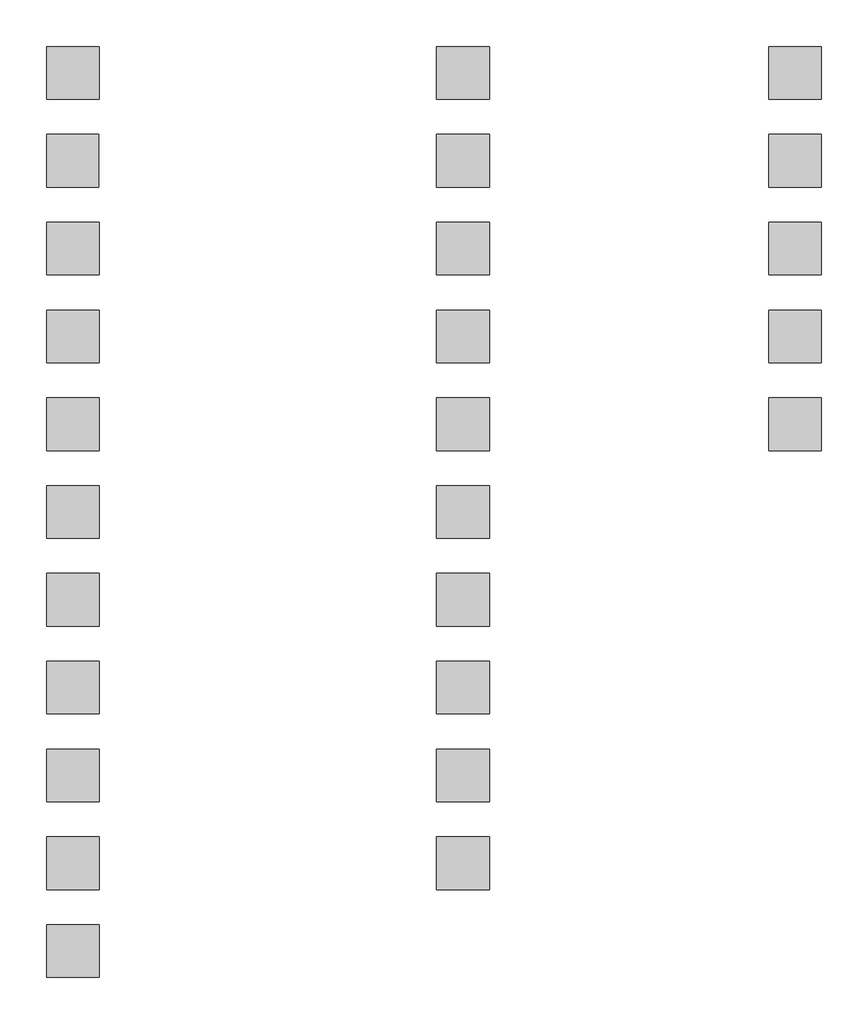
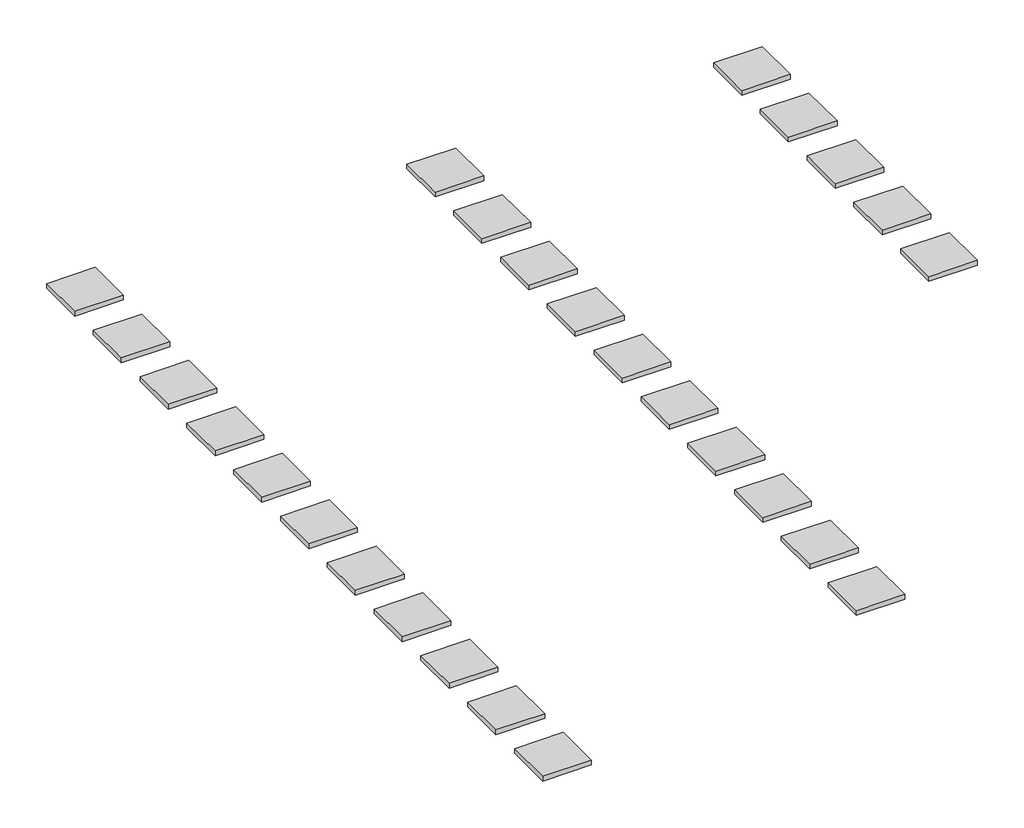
# One storey: 26 proxies.
"""IFC4 building model written with IfcOpenShell, lengths in millimetres."""

from ifc_helpers import new_model, si_unit, origin, place, context, project, spatial, transform, mapped, element, save
from components import generic_models_0c09b2ec, generic_models_9b3acfd8, generic_models_28068f12, generic_models_6499e876, generic_models_cb08545f, generic_models_b631c376, generic_models_fcddf058, generic_models_67897759, generic_models_f406bcb4, generic_models_e74df339, generic_models_d84b7280, generic_models_5f2c8e4c, generic_models_f087d3d4, generic_models_71eee53d, generic_models_0452db8b, generic_models_9dd790ae, generic_models_6202fbd5, generic_models_1e27c4d6, generic_models_567bf115, generic_models_7087feed, generic_models_07bc0a28, generic_models_a4b7abf8, generic_models_f42c9dbd, generic_models_39fc4655, generic_models_cf36a30d, generic_models_b7aa1bbc

model = new_model("IFC4")

# Units and contexts
model_context = context("Model", 3, world=origin())
ifc_project = project(units=[si_unit("LENGTHUNIT", "METRE", prefix="MILLI")], contexts=[model_context])

# Site, building, storey
site = spatial("IfcSite", under=ifc_project)
building = spatial("IfcBuilding", under=site)
storey = spatial("IfcBuildingStorey", under=building, Name="Nível 1", Elevation=0.0)

# Proxies
placement = place(None, origin())
generic_models_shape = generic_models_0c09b2ec(model_context)
element("IfcBuildingElementProxy", 1, Name="Modelos genéricos 1 : Modelos genéricos 1", ObjectType="Modelos genéricos 1 : Modelos genéricos 1", at=placement, inside=storey, context=model_context, shape_type="MappedRepresentation", body=[
    mapped(generic_models_shape, transform((468.0, 0.0, 0.0), x_axis=(1.0, 0.0, 0.0), y_axis=(0.0, 1.0, 0.0), z_axis=(0.0, 0.0, 1.0))),
])
generic_models_2_shape = generic_models_9b3acfd8(model_context)
element("IfcBuildingElementProxy", 2, Name="Modelos genéricos 2 : Modelos genéricos 1", ObjectType="Modelos genéricos 2 : Modelos genéricos 1", at=placement, inside=storey, context=model_context, shape_type="MappedRepresentation", body=[
    mapped(generic_models_2_shape, transform((468.0, 0.0, 0.0), x_axis=(1.0, 0.0, 0.0), y_axis=(0.0, 1.0, 0.0), z_axis=(0.0, 0.0, 1.0))),
])
generic_models_3_shape = generic_models_28068f12(model_context)
element("IfcBuildingElementProxy", 3, Name="Modelos genéricos 3 : Modelos genéricos 1", ObjectType="Modelos genéricos 3 : Modelos genéricos 1", at=placement, inside=storey, context=model_context, shape_type="MappedRepresentation", body=[
    mapped(generic_models_3_shape, transform((468.0, 0.0, 0.0), x_axis=(1.0, 0.0, 0.0), y_axis=(0.0, 1.0, 0.0), z_axis=(0.0, 0.0, 1.0))),
])
generic_models_4_shape = generic_models_6499e876(model_context)
element("IfcBuildingElementProxy", 4, Name="Modelos genéricos 4 : Modelos genéricos 1", ObjectType="Modelos genéricos 4 : Modelos genéricos 1", at=placement, inside=storey, context=model_context, shape_type="MappedRepresentation", body=[
    mapped(generic_models_4_shape, transform((468.0, 0.0, 0.0), x_axis=(1.0, 0.0, 0.0), y_axis=(0.0, 1.0, 0.0), z_axis=(0.0, 0.0, 1.0))),
])
generic_models_5_shape = generic_models_cb08545f(model_context)
element("IfcBuildingElementProxy", 5, Name="Modelos genéricos 5 : Modelos genéricos 1", ObjectType="Modelos genéricos 5 : Modelos genéricos 1", at=placement, inside=storey, context=model_context, shape_type="MappedRepresentation", body=[
    mapped(generic_models_5_shape, transform((468.0, 0.0, 0.0), x_axis=(1.0, 0.0, 0.0), y_axis=(0.0, 1.0, 0.0), z_axis=(0.0, 0.0, 1.0))),
])
generic_models_6_shape = generic_models_b631c376(model_context)
element("IfcBuildingElementProxy", 6, Name="Modelos genéricos 6 : Modelos genéricos 1", ObjectType="Modelos genéricos 6 : Modelos genéricos 1", at=placement, inside=storey, context=model_context, shape_type="MappedRepresentation", body=[
    mapped(generic_models_6_shape, transform((468.0, 0.0, 0.0), x_axis=(1.0, 0.0, 0.0), y_axis=(0.0, 1.0, 0.0), z_axis=(0.0, 0.0, 1.0))),
])
generic_models_7_shape = generic_models_fcddf058(model_context)
element("IfcBuildingElementProxy", 7, Name="Modelos genéricos 7 : Modelos genéricos 1", ObjectType="Modelos genéricos 7 : Modelos genéricos 1", at=placement, inside=storey, context=model_context, shape_type="MappedRepresentation", body=[
    mapped(generic_models_7_shape, transform((468.0, 0.0, 0.0), x_axis=(1.0, 0.0, 0.0), y_axis=(0.0, 1.0, 0.0), z_axis=(0.0, 0.0, 1.0))),
])
generic_models_8_shape = generic_models_67897759(model_context)
element("IfcBuildingElementProxy", 8, Name="Modelos genéricos 8 : Modelos genéricos 1", ObjectType="Modelos genéricos 8 : Modelos genéricos 1", at=placement, inside=storey, context=model_context, shape_type="MappedRepresentation", body=[
    mapped(generic_models_8_shape, transform((468.0, 0.0, 0.0), x_axis=(1.0, 0.0, 0.0), y_axis=(0.0, 1.0, 0.0), z_axis=(0.0, 0.0, 1.0))),
])
generic_models_9_shape = generic_models_f406bcb4(model_context)
element("IfcBuildingElementProxy", 9, Name="Modelos genéricos 9 : Modelos genéricos 1", ObjectType="Modelos genéricos 9 : Modelos genéricos 1", at=placement, inside=storey, context=model_context, shape_type="MappedRepresentation", body=[
    mapped(generic_models_9_shape, transform((468.0, 0.0, 0.0), x_axis=(1.0, 0.0, 0.0), y_axis=(0.0, 1.0, 0.0), z_axis=(0.0, 0.0, 1.0))),
])
generic_models_10_shape = generic_models_e74df339(model_context)
element("IfcBuildingElementProxy", 10, Name="Modelos genéricos 10 : Modelos genéricos 1", ObjectType="Modelos genéricos 10 : Modelos genéricos 1", at=placement, inside=storey, context=model_context, shape_type="MappedRepresentation", body=[
    mapped(generic_models_10_shape, transform((468.0, 0.0, 0.0), x_axis=(1.0, 0.0, 0.0), y_axis=(0.0, 1.0, 0.0), z_axis=(0.0, 0.0, 1.0))),
])
generic_models_11_shape = generic_models_d84b7280(model_context)
element("IfcBuildingElementProxy", 11, Name="Modelos genéricos 11 : Modelos genéricos 1", ObjectType="Modelos genéricos 11 : Modelos genéricos 1", at=placement, inside=storey, context=model_context, shape_type="MappedRepresentation", body=[
    mapped(generic_models_11_shape, transform((468.0, 0.0, 0.0), x_axis=(1.0, 0.0, 0.0), y_axis=(0.0, 1.0, 0.0), z_axis=(0.0, 0.0, 1.0))),
])
generic_models_12_shape = generic_models_5f2c8e4c(model_context)
element("IfcBuildingElementProxy", 12, Name="Modelos genéricos 12 : Modelos genéricos 1", ObjectType="Modelos genéricos 12 : Modelos genéricos 1", at=placement, inside=storey, context=model_context, shape_type="MappedRepresentation", body=[
    mapped(generic_models_12_shape, transform((780.0, 0.0, 0.0), x_axis=(1.0, 0.0, 0.0), y_axis=(0.0, 1.0, 0.0), z_axis=(0.0, 0.0, 1.0))),
])
generic_models_13_shape = generic_models_f087d3d4(model_context)
element("IfcBuildingElementProxy", 13, Name="Modelos genéricos 13 : Modelos genéricos 1", ObjectType="Modelos genéricos 13 : Modelos genéricos 1", at=placement, inside=storey, context=model_context, shape_type="MappedRepresentation", body=[
    mapped(generic_models_13_shape, transform((780.0, 0.0, 0.0), x_axis=(1.0, 0.0, 0.0), y_axis=(0.0, 1.0, 0.0), z_axis=(0.0, 0.0, 1.0))),
])
generic_models_14_shape = generic_models_71eee53d(model_context)
element("IfcBuildingElementProxy", 14, Name="Modelos genéricos 14 : Modelos genéricos 1", ObjectType="Modelos genéricos 14 : Modelos genéricos 1", at=placement, inside=storey, context=model_context, shape_type="MappedRepresentation", body=[
    mapped(generic_models_14_shape, transform((780.0, 0.0, 0.0), x_axis=(1.0, 0.0, 0.0), y_axis=(0.0, 1.0, 0.0), z_axis=(0.0, 0.0, 1.0))),
])
generic_models_15_shape = generic_models_0452db8b(model_context)
element("IfcBuildingElementProxy", 15, Name="Modelos genéricos 15 : Modelos genéricos 1", ObjectType="Modelos genéricos 15 : Modelos genéricos 1", at=placement, inside=storey, context=model_context, shape_type="MappedRepresentation", body=[
    mapped(generic_models_15_shape, transform((780.0, 0.0, 0.0), x_axis=(1.0, 0.0, 0.0), y_axis=(0.0, 1.0, 0.0), z_axis=(0.0, 0.0, 1.0))),
])
generic_models_16_shape = generic_models_9dd790ae(model_context)
element("IfcBuildingElementProxy", 16, Name="Modelos genéricos 16 : Modelos genéricos 1", ObjectType="Modelos genéricos 16 : Modelos genéricos 1", at=placement, inside=storey, context=model_context, shape_type="MappedRepresentation", body=[
    mapped(generic_models_16_shape, transform((780.0, 0.0, 0.0), x_axis=(1.0, 0.0, 0.0), y_axis=(0.0, 1.0, 0.0), z_axis=(0.0, 0.0, 1.0))),
])
generic_models_17_shape = generic_models_6202fbd5(model_context)
element("IfcBuildingElementProxy", 17, Name="Modelos genéricos 17 : Modelos genéricos 1", ObjectType="Modelos genéricos 17 : Modelos genéricos 1", at=placement, inside=storey, context=model_context, shape_type="MappedRepresentation", body=[
    mapped(generic_models_17_shape, transform((780.0, 0.0, 0.0), x_axis=(1.0, 0.0, 0.0), y_axis=(0.0, 1.0, 0.0), z_axis=(0.0, 0.0, 1.0))),
])
generic_models_18_shape = generic_models_1e27c4d6(model_context)
element("IfcBuildingElementProxy", 18, Name="Modelos genéricos 18 : Modelos genéricos 1", ObjectType="Modelos genéricos 18 : Modelos genéricos 1", at=placement, inside=storey, context=model_context, shape_type="MappedRepresentation", body=[
    mapped(generic_models_18_shape, transform((780.0, 0.0, 0.0), x_axis=(1.0, 0.0, 0.0), y_axis=(0.0, 1.0, 0.0), z_axis=(0.0, 0.0, 1.0))),
])
generic_models_19_shape = generic_models_567bf115(model_context)
element("IfcBuildingElementProxy", 19, Name="Modelos genéricos 19 : Modelos genéricos 1", ObjectType="Modelos genéricos 19 : Modelos genéricos 1", at=placement, inside=storey, context=model_context, shape_type="MappedRepresentation", body=[
    mapped(generic_models_19_shape, transform((780.0, 0.0, 0.0), x_axis=(1.0, 0.0, 0.0), y_axis=(0.0, 1.0, 0.0), z_axis=(0.0, 0.0, 1.0))),
])
generic_models_20_shape = generic_models_7087feed(model_context)
element("IfcBuildingElementProxy", 20, Name="Modelos genéricos 20 : Modelos genéricos 1", ObjectType="Modelos genéricos 20 : Modelos genéricos 1", at=placement, inside=storey, context=model_context, shape_type="MappedRepresentation", body=[
    mapped(generic_models_20_shape, transform((780.0, 0.0, 0.0), x_axis=(1.0, 0.0, 0.0), y_axis=(0.0, 1.0, 0.0), z_axis=(0.0, 0.0, 1.0))),
])
generic_models_21_shape = generic_models_07bc0a28(model_context)
element("IfcBuildingElementProxy", 21, Name="Modelos genéricos 21 : Modelos genéricos 1", ObjectType="Modelos genéricos 21 : Modelos genéricos 1", at=placement, inside=storey, context=model_context, shape_type="MappedRepresentation", body=[
    mapped(generic_models_21_shape, transform((780.0, 0.0, 0.0), x_axis=(1.0, 0.0, 0.0), y_axis=(0.0, 1.0, 0.0), z_axis=(0.0, 0.0, 1.0))),
])
generic_models_22_shape = generic_models_a4b7abf8(model_context)
element("IfcBuildingElementProxy", 22, Name="Modelos genéricos 22 : Modelos genéricos 1", ObjectType="Modelos genéricos 22 : Modelos genéricos 1", at=placement, inside=storey, context=model_context, shape_type="MappedRepresentation", body=[
    mapped(generic_models_22_shape, transform((0.0, 0.0, 0.0), x_axis=(1.0, 0.0, 0.0), y_axis=(0.0, 1.0, 0.0), z_axis=(0.0, 0.0, 1.0))),
])
generic_models_23_shape = generic_models_f42c9dbd(model_context)
element("IfcBuildingElementProxy", 23, Name="Modelos genéricos 23 : Modelos genéricos 1", ObjectType="Modelos genéricos 23 : Modelos genéricos 1", at=placement, inside=storey, context=model_context, shape_type="MappedRepresentation", body=[
    mapped(generic_models_23_shape, transform((0.0, 0.0, 0.0), x_axis=(1.0, 0.0, 0.0), y_axis=(0.0, 1.0, 0.0), z_axis=(0.0, 0.0, 1.0))),
])
generic_models_24_shape = generic_models_39fc4655(model_context)
element("IfcBuildingElementProxy", 24, Name="Modelos genéricos 24 : Modelos genéricos 1", ObjectType="Modelos genéricos 24 : Modelos genéricos 1", at=placement, inside=storey, context=model_context, shape_type="MappedRepresentation", body=[
    mapped(generic_models_24_shape, transform((0.0, 0.0, 0.0), x_axis=(1.0, 0.0, 0.0), y_axis=(0.0, 1.0, 0.0), z_axis=(0.0, 0.0, 1.0))),
])
generic_models_25_shape = generic_models_cf36a30d(model_context)
element("IfcBuildingElementProxy", 25, Name="Modelos genéricos 25 : Modelos genéricos 1", ObjectType="Modelos genéricos 25 : Modelos genéricos 1", at=placement, inside=storey, context=model_context, shape_type="MappedRepresentation", body=[
    mapped(generic_models_25_shape, transform((0.0, 0.0, 0.0), x_axis=(1.0, 0.0, 0.0), y_axis=(0.0, 1.0, 0.0), z_axis=(0.0, 0.0, 1.0))),
])
generic_models_26_shape = generic_models_b7aa1bbc(model_context)
element("IfcBuildingElementProxy", 26, Name="Modelos genéricos 26 : Modelos genéricos 1", ObjectType="Modelos genéricos 26 : Modelos genéricos 1", at=placement, inside=storey, context=model_context, shape_type="MappedRepresentation", body=[
    mapped(generic_models_26_shape, transform((0.0, 0.0, 0.0), x_axis=(1.0, 0.0, 0.0), y_axis=(0.0, 1.0, 0.0), z_axis=(0.0, 0.0, 1.0))),
])

save(model, "model.ifc")
